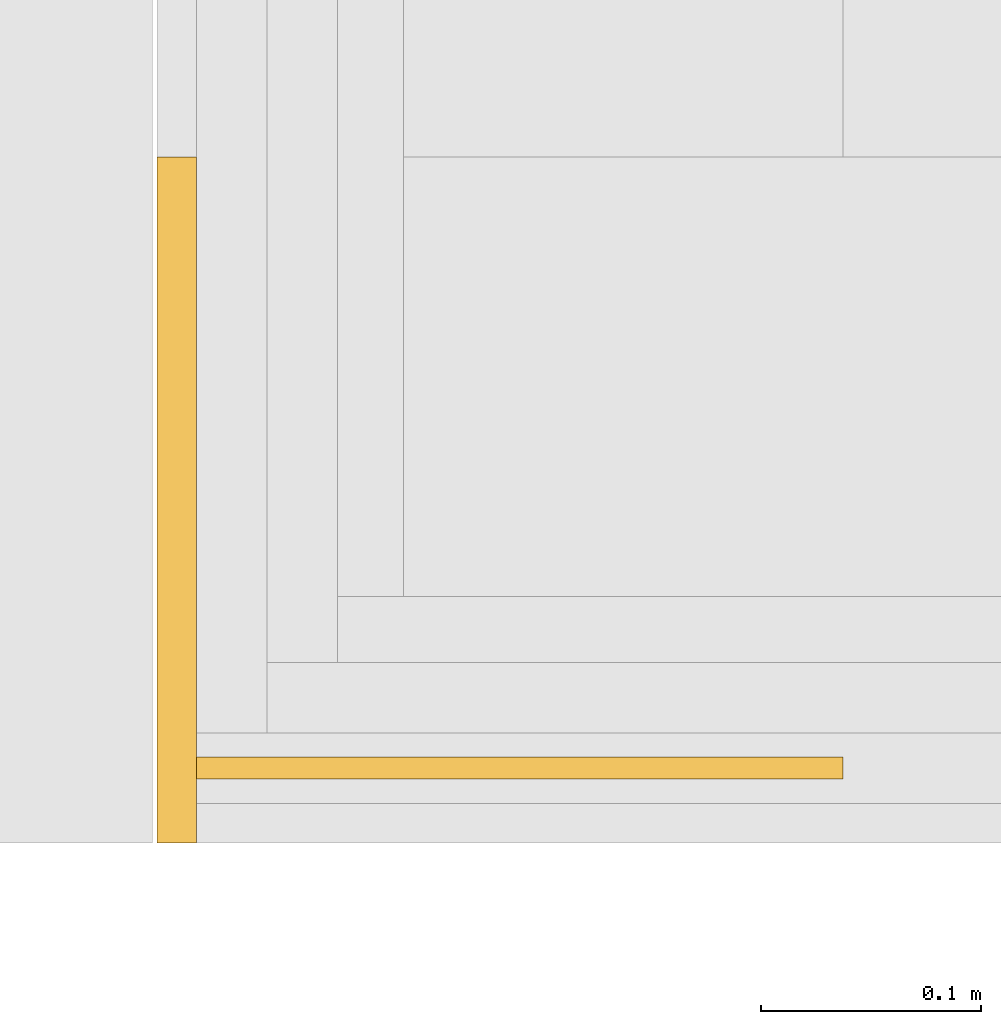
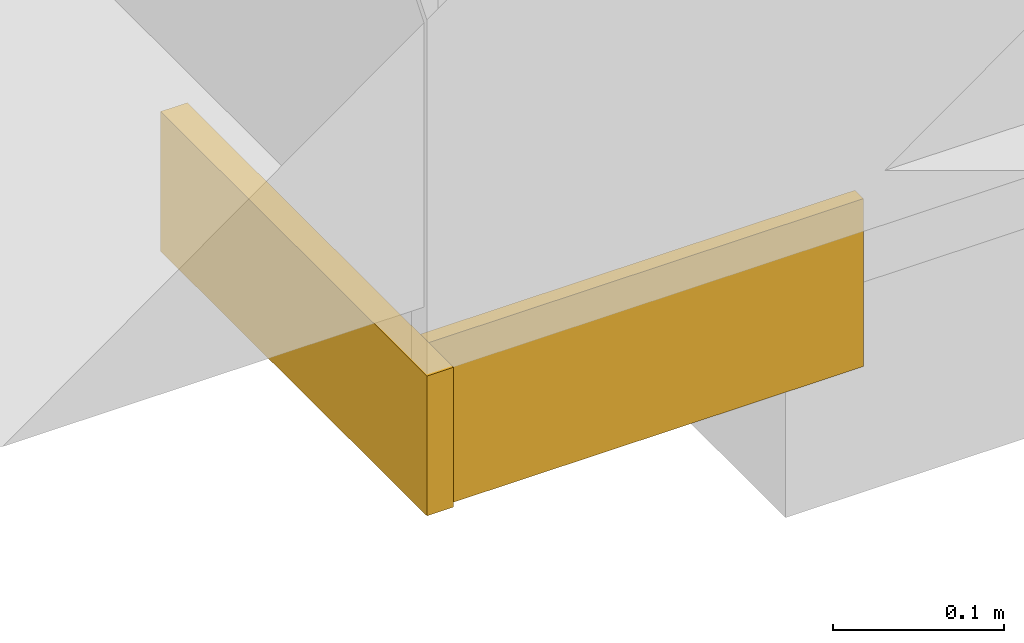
# One storey, part 258 of 260: 2 coverings.
"""IFC2X3 building model written with IfcOpenShell, lengths in millimetres."""

from ifc_helpers import new_model, entity, si_unit, converted_unit, derived_unit, money_unit, direction, frame, origin_with_axes, place, context, subcontext, project, spatial, faceted_brep, material, type_object, element, save


model = new_model("IFC2X3")

# Units and contexts
model_context = context("Model", 3, precision=0.01, world=origin_with_axes(), true_north=direction((0.0, 1.0)))
body_context = subcontext(model_context, "Body", "Model", "MODEL_VIEW")
ifc_project = project(units=[si_unit("LENGTHUNIT", "METRE", prefix="MILLI"), si_unit("AREAUNIT", "SQUARE_METRE"), si_unit("VOLUMEUNIT", "CUBIC_METRE"), converted_unit("PLANEANGLEUNIT", "DEGREE", entity("IfcPlaneAngleMeasure", 0.0174532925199), si_unit("PLANEANGLEUNIT", "RADIAN"), dimensions=[0, 0, 0, 0, 0, 0, 0]), money_unit("EUR"), converted_unit("TIMEUNIT", "Year", entity("IfcTimeMeasure", 31556926.0), si_unit("TIMEUNIT", "SECOND"), dimensions=[0, 0, 1, 0, 0, 0, 0]), si_unit("MASSUNIT", "GRAM", prefix="KILO"), si_unit("THERMODYNAMICTEMPERATUREUNIT", "DEGREE_CELSIUS"), si_unit("LUMINOUSINTENSITYUNIT", "LUMEN"), si_unit("ENERGYUNIT", "JOULE", prefix="MEGA"), derived_unit("THERMALCONDUCTANCEUNIT", [(si_unit("POWERUNIT", "WATT"), 1), (si_unit("LENGTHUNIT", "METRE"), -1), (si_unit("THERMODYNAMICTEMPERATUREUNIT", "KELVIN"), -1)]), derived_unit("SPECIFICHEATCAPACITYUNIT", [(si_unit("ENERGYUNIT", "JOULE"), 1), (si_unit("MASSUNIT", "GRAM", prefix="KILO"), -1), (si_unit("THERMODYNAMICTEMPERATUREUNIT", "KELVIN"), -1)]), derived_unit("MASSDENSITYUNIT", [(si_unit("MASSUNIT", "GRAM", prefix="KILO"), 1), (si_unit("VOLUMEUNIT", "CUBIC_METRE"), -1)])], contexts=[model_context])

# Site, building, storey
site_placement = place(None, origin_with_axes())
site = spatial("IfcSite", under=ifc_project, at=site_placement, Name="Kolde pst 67a", CompositionType="ELEMENT")
building_placement = place(site_placement, origin_with_axes())
building = spatial("IfcBuilding", under=site, at=building_placement, Name="Riigigümnaasium", CompositionType="ELEMENT")
storey_placement = place(building_placement, origin_with_axes())
storey = spatial("IfcBuildingStorey", under=building, at=storey_placement, Name="1. korrus", CompositionType="ELEMENT", Elevation=0.0)

# Coverings
ifc_material_1 = material(Name="_VÄLISVIIMISTLUS - vertikaalne voodrilaud, Platowood P01 profiil 18x140mm, kuusk; eeltöödeldud tuletõkkega mõlemad küljed, B-s1, d0, Woodsafe Exterior WFX™ või samaväärne")
covering_type_1 = type_object("IfcCoveringType", Name="_VÄLISVIIMISTLUS - vertikaalne voodrilaud, Platowood P01 profiil 18x140mm, kuusk; eeltöödeldud tuletõkkega mõlemad küljed, B-s1, d0, Woodsafe Exterior WFX™ või samaväärne 18", PredefinedType="NOTDEFINED")
covering_1_placement = place(storey_placement, frame((55058.0096858, 39.9988323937, 0.0), z_axis=(0.0, 0.0, 1.0), x_axis=(3.74232801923e-06, -0.999999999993, 0.0)))
element("IfcCovering", 1, at=covering_1_placement, inside=storey, type_object=covering_type_1, material=ifc_material_1, Name="Fassaadilaudis", PredefinedType="NOTDEFINED", context=body_context, shape_type="Brep", body=[
    faceted_brep([(0.0, 18.0, 0.0), (311.998832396, 18.0, 0.0), (311.998832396, 0.0, 0.0), (0.0, 0.0, 0.0), (0.0, 18.0, 100.0), (311.998832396, 18.0, 100.0), (311.998832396, 0.0, 100.0), (0.0, 0.0, 100.0)], [[[0, 1, 2, 3]], [[4, 5, 1, 0]], [[2, 1, 5, 6]], [[3, 2, 6, 7]], [[4, 0, 3, 7]], [[7, 6, 5, 4]]]),
])
ifc_material_2 = material(Name="_TUULETÕKE - sokli krohv, silikoonvaikkrohv Weber.pas 481 AquaBalance 1mm \"scratch\" viimistlus, toon helehall CL444 (S 3502-Y) * 35, SILS süsteem, või samaväärne")
covering_type_2 = type_object("IfcCoveringType", Name="_TUULETÕKE - sokli krohv, silikoonvaikkrohv Weber.pas 481 AquaBalance 1mm \"scratch\" viimistlus, toon helehall CL444 (S 3502-Y) * 35, SILS süsteem, või samaväärne 10", PredefinedType="NOTDEFINED")
covering_2_placement = place(storey_placement, frame((55370.0097058, -243.0, -19.9999994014), z_axis=(0.0, 0.0, 1.0), x_axis=(-1.0, 0.0, 0.0)))
element("IfcCovering", 2, at=covering_2_placement, inside=storey, type_object=covering_type_2, material=ifc_material_2, Name="Välisseina viimistlus", PredefinedType="NOTDEFINED", context=body_context, shape_type="Brep", body=[
    faceted_brep([(0.0, -10.0, 119.999999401), (293.998852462, -10.0, 119.999999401), (293.998852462, 0.0, 119.999999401), (0.0, 0.0, 119.999999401), (0.0, -10.0, 0.0), (293.998852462, -10.0, 0.0), (293.998852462, 0.0, 0.0), (0.0, 0.0, 0.0)], [[[0, 1, 2, 3]], [[4, 5, 1, 0]], [[2, 1, 5, 6]], [[3, 2, 6, 7]], [[4, 0, 3, 7]], [[7, 6, 5, 4]]]),
])

save(model, "model.ifc")
